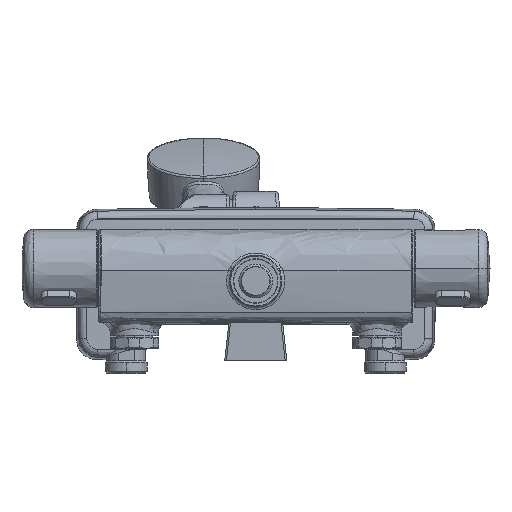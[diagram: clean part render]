
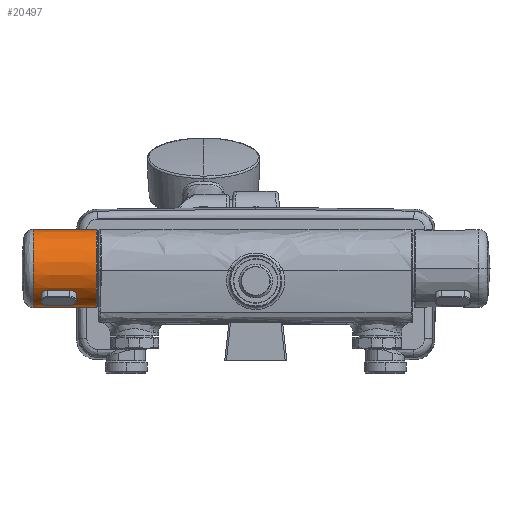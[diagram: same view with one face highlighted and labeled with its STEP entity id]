
A CAD part, front view. The second image highlights one B-rep face of the part: STEP entity #20497.
In plain terms, the highlighted conical face has half-angle 0.25 degrees and reference radius 24.172 mm.
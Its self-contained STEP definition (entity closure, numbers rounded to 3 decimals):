
#1141 = DIRECTION ( 'NONE',  ( -1., 0., 0. ) ) ;
#1293 = ORIENTED_EDGE ( 'NONE', *, *, #7647, .T. ) ;
#1502 = VECTOR ( 'NONE', #3001, 1000. ) ;
#1828 = DIRECTION ( 'NONE',  ( -1., 0., 0. ) ) ;
#2389 = CONICAL_SURFACE ( 'NONE', #16577, 24.172, 0.004 ) ;
#2522 = VERTEX_POINT ( 'NONE', #16056 ) ;
#3001 = DIRECTION ( 'NONE',  ( -1., 0., -0.004 ) ) ;
#5572 = CARTESIAN_POINT ( 'NONE',  ( -137.385, -420., 32.828 ) ) ;
#7264 = EDGE_CURVE ( 'NONE', #27390, #2522, #21844, .T. ) ;
#7647 = EDGE_CURVE ( 'NONE', #2522, #17766, #11823, .T. ) ;
#8532 = EDGE_CURVE ( 'NONE', #27390, #29860, #21884, .T. ) ;
#8646 = CARTESIAN_POINT ( 'NONE',  ( -137.385, -420., 57. ) ) ;
#9374 = ORIENTED_EDGE ( 'NONE', *, *, #18298, .T. ) ;
#9724 = CARTESIAN_POINT ( 'NONE',  ( -137.385, -420., 81.172 ) ) ;
#10297 = CARTESIAN_POINT ( 'NONE',  ( -137.385, -420., 57. ) ) ;
#10398 = DIRECTION ( 'NONE',  ( 1., 0., 0. ) ) ;
#11516 = AXIS2_PLACEMENT_3D ( 'NONE', #10297, #10398, #27546 ) ;
#11823 = LINE ( 'NONE', #12511, #16076 ) ;
#12397 = DIRECTION ( 'NONE',  ( -1., 0., 0.004 ) ) ;
#12511 = CARTESIAN_POINT ( 'NONE',  ( -137.385, -420., 81.172 ) ) ;
#14390 = CARTESIAN_POINT ( 'NONE',  ( -98.548, -420., 57. ) ) ;
#14460 = ORIENTED_EDGE ( 'NONE', *, *, #7264, .T. ) ;
#14805 = CARTESIAN_POINT ( 'NONE',  ( -137.385, -420., 32.828 ) ) ;
#15041 = FACE_OUTER_BOUND ( 'NONE', #28693, .T. ) ;
#16056 = CARTESIAN_POINT ( 'NONE',  ( -98.548, -420., 81.002 ) ) ;
#16076 = VECTOR ( 'NONE', #12397, 1000. ) ;
#16577 = AXIS2_PLACEMENT_3D ( 'NONE', #8646, #1141, #20606 ) ;
#16757 = DIRECTION ( 'NONE',  ( 0., 0., 1. ) ) ;
#17766 = VERTEX_POINT ( 'NONE', #9724 ) ;
#18298 = EDGE_CURVE ( 'NONE', #17766, #29860, #20869, .T. ) ;
#20497 = ADVANCED_FACE ( 'NONE', ( #15041 ), #2389, .T. ) ;
#20606 = DIRECTION ( 'NONE',  ( 0., 0., 1. ) ) ;
#20869 = CIRCLE ( 'NONE', #11516, 24.172 ) ;
#21844 = CIRCLE ( 'NONE', #25801, 24.002 ) ;
#21884 = LINE ( 'NONE', #5572, #1502 ) ;
#23783 = ORIENTED_EDGE ( 'NONE', *, *, #8532, .F. ) ;
#25801 = AXIS2_PLACEMENT_3D ( 'NONE', #14390, #1828, #16757 ) ;
#27390 = VERTEX_POINT ( 'NONE', #29207 ) ;
#27546 = DIRECTION ( 'NONE',  ( 0., 0., 1. ) ) ;
#28693 = EDGE_LOOP ( 'NONE', ( #23783, #14460, #1293, #9374 ) ) ;
#29207 = CARTESIAN_POINT ( 'NONE',  ( -98.548, -420., 32.998 ) ) ;
#29860 = VERTEX_POINT ( 'NONE', #14805 ) ;
